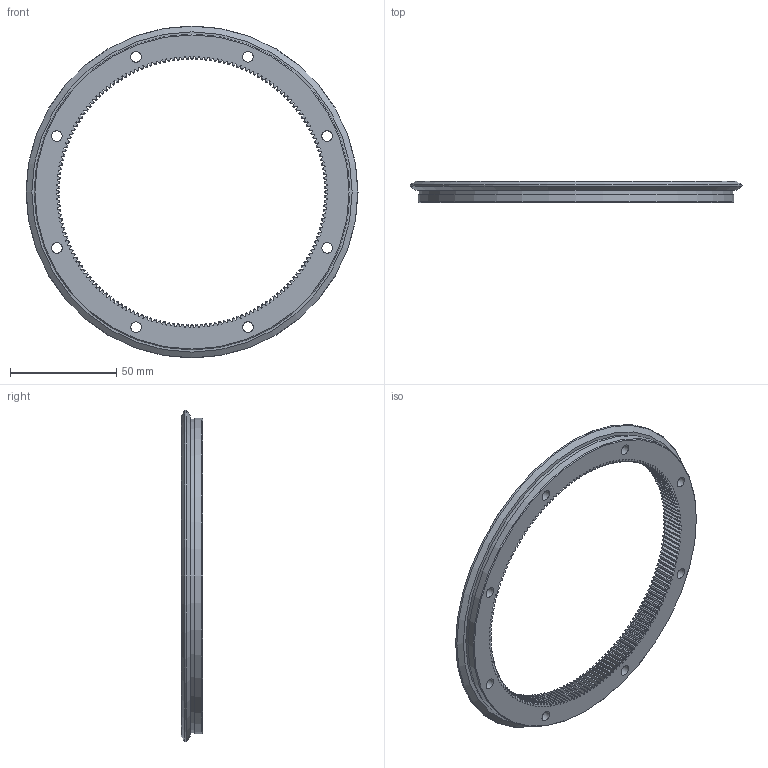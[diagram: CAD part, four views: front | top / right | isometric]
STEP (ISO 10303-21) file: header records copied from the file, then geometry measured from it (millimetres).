
FILE_DESCRIPTION(('STEP AP203'),'1');
FILE_NAME('REV 156 R360 Q.stp','2022-07-19T05:00:52',(' '),(' '),'Spatial InterOp 3D',' ',' ');
FILE_SCHEMA(('CONFIG_CONTROL_DESIGN'));
Length unit declared in the file: millimetre
Products named in the file (1): REV 156 R360 Q
Bounding box: 156.2 x 10 x 156.2 mm (x, y, z)
Volume: 51095.3 mm3; surface area: 26089.8 mm2
Topology: 1 solids, 1 shells, 934 faces, 2771 edges, 1849 vertices
Faces by surface type: cylinder 378, plane 372, cone 183, torus 1
Full cylindrical faces by diameter (mm): 5 x8, 8 x8, 147.4 x1, 148.6 x1
Entity records: 31836 total; most frequent: CARTESIAN_POINT 6621, ORIENTED_EDGE 5482, DIRECTION 5192, EDGE_CURVE 2741, AXIS2_PLACEMENT_3D 1876, VERTEX_POINT 1841, LINE 1440, VECTOR 1440
